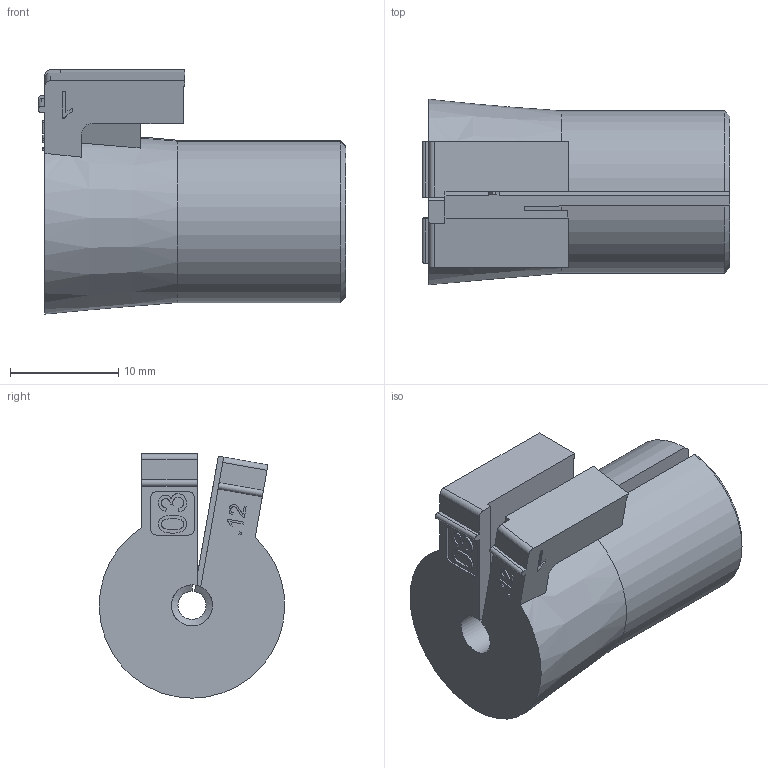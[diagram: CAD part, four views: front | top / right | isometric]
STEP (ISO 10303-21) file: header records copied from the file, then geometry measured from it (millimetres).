
FILE_DESCRIPTION(/* description */ (''),/* implementation_level */ '2;1');
FILE_NAME(/* name */ 'H:\SapWorkDir\Inventor\MP1\ConvertTempPath\87_12_121346_00_A_220530_KDT-X 03.stp',/* time_stamp */ '2022-05-30T14:29:59+02:00',/* author */ ('BAUER'),/* organization */ (''),/* preprocessor_version */ 'ST-DEVELOPER v16.13',/* originating_system */ 'Autodesk Inventor 2018',/* authorisation */ '');
FILE_SCHEMA (('AUTOMOTIVE_DESIGN { 1 0 10303 214 3 1 1 }'));
Length unit declared in the file: millimetre
Products named in the file (1): 121346
Bounding box: 28.4 x 17.13 x 22.57 mm (x, y, z)
Volume: 5390.2 mm3; surface area: 2869.5 mm2
Topology: 1 solids, 1 shells, 122 faces, 342 edges, 228 vertices
Faces by surface type: plane 65, bspline 37, cylinder 16, cone 4
Full cylindrical faces by diameter (mm): 3.8 x1
Entity records: 4149 total; most frequent: CARTESIAN_POINT 1175, ORIENTED_EDGE 680, DIRECTION 476, EDGE_CURVE 340, VERTEX_POINT 227, LINE 220, VECTOR 220, EDGE_LOOP 131
